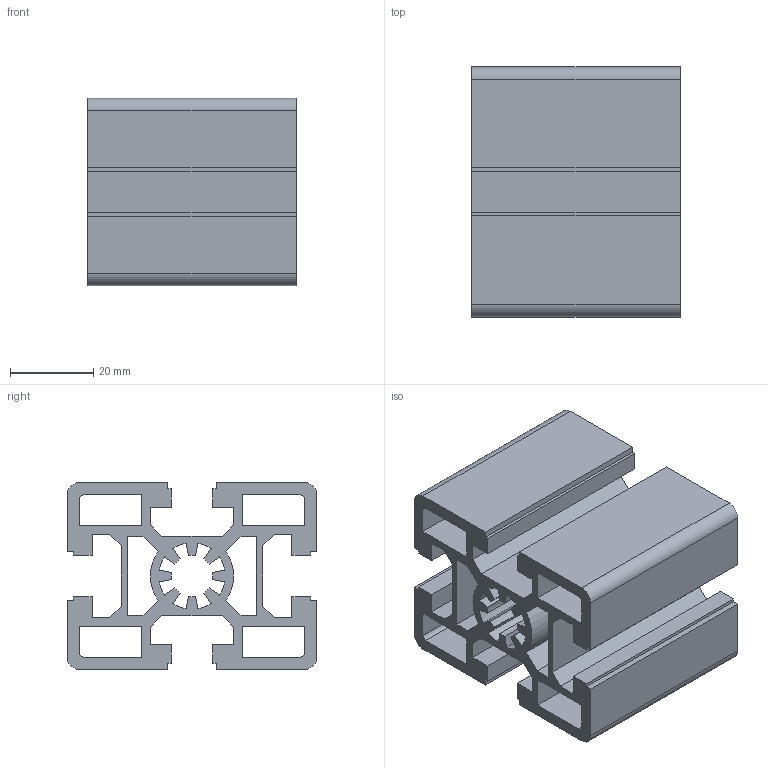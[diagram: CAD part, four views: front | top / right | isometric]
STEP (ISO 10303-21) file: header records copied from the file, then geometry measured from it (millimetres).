
FILE_DESCRIPTION(('no description'),'unknown implementation level');
FILE_NAME('3842990570_140537116.stp',' ',('Bosch Rexroth AG'),('CADClick - KiM GmbH - www.kimweb.de'),'unknown preprocess','ACIS','unknown authorization');
FILE_SCHEMA(('automotive_design'));
Length unit declared in the file: millimetre
Products named in the file (1): 1
Bounding box: 50 x 60 x 45 mm (x, y, z)
Volume: 54806 mm3; surface area: 39314.5 mm2
Topology: 1 solids, 1 shells, 130 faces, 384 edges, 256 vertices
Faces by surface type: plane 104, cylinder 26
Entity records: 8592 total; most frequent: STYLED_ITEM 771, PRESENTATION_STYLE_ASSIGNMENT 771, CARTESIAN_POINT 771, COLOUR_RGB 771, ORIENTED_EDGE 768, DIRECTION 698, EDGE_CURVE 384, CURVE_STYLE 384
